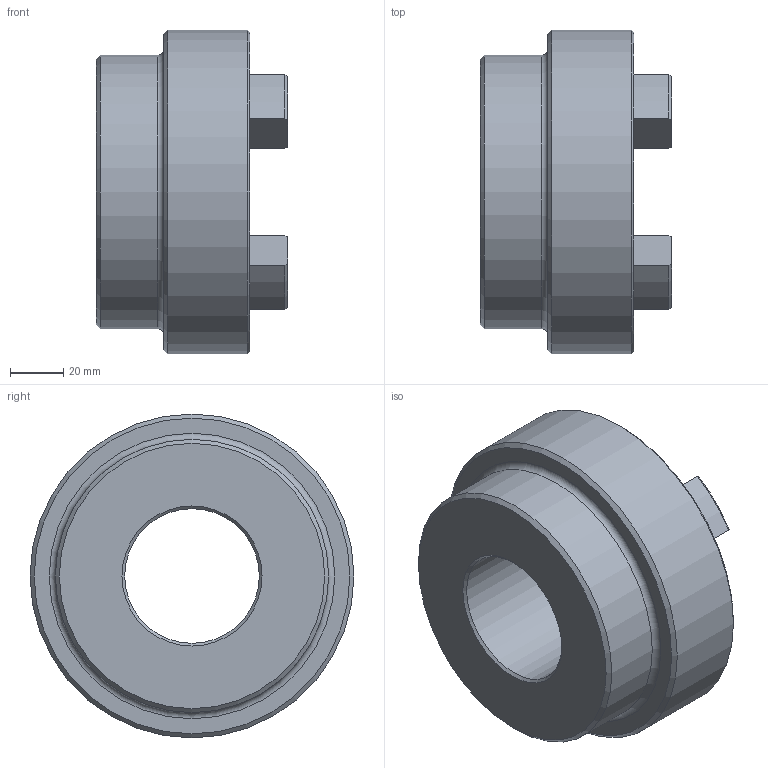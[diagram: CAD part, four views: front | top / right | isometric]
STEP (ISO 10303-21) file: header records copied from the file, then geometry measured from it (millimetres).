
FILE_DESCRIPTION (( 'STEP AP203' ), '1' );
FILE_NAME ('RC5.step', '2024-07-25T13:38:11', ( 'Adlan' ), ( '' ), 'SwSTEP 2.0', 'SolidWorks 2013', '' );
FILE_SCHEMA (( 'CONFIG_CONTROL_DESIGN' ));
Length unit declared in the file: inch
Products named in the file (1): RC5
Bounding box: 72.14 x 122.17 x 122.17 mm (x, y, z)
Volume: 396062.3 mm3; surface area: 58207.5 mm2
Topology: 1 solids, 1 shells, 76 faces, 189 edges, 117 vertices
Faces by surface type: cylinder 31, torus 17, plane 16, cone 12
Full cylindrical faces by diameter (mm): 50.813 x1, 103.124 x1, 122.174 x1
Entity records: 2349 total; most frequent: CARTESIAN_POINT 443, DIRECTION 416, ORIENTED_EDGE 358, EDGE_CURVE 179, AXIS2_PLACEMENT_3D 168, VERTEX_POINT 115, CIRCLE 91, EDGE_LOOP 88
